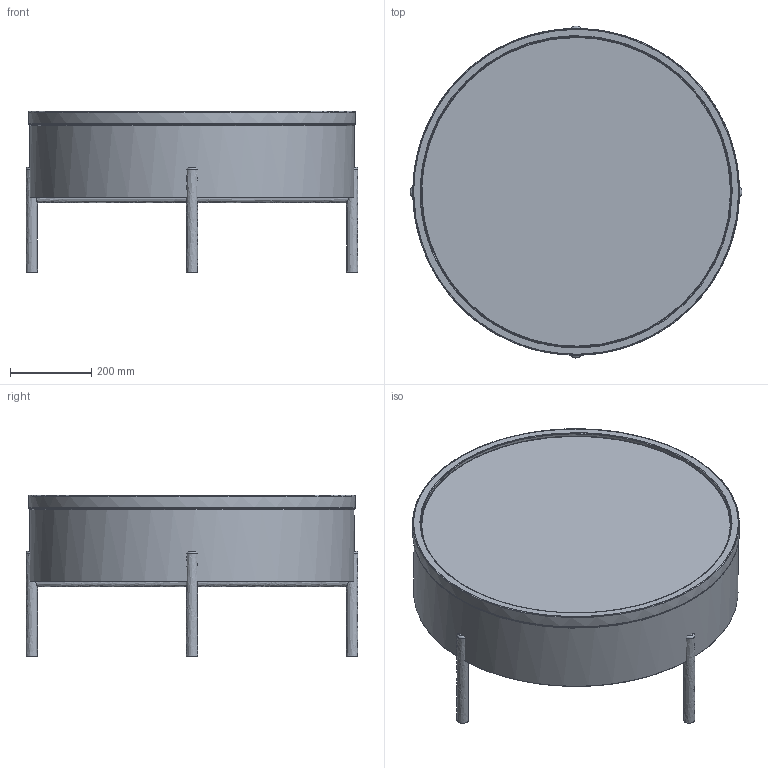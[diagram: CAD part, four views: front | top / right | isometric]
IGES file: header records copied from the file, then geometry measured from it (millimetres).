
Global section: file name: 16HC:\Users\Monika; native system: Rhinoceros ( Feb  8 2022 ); preprocessor: Trout Lake IGES 012 Feb  8 2022; date: 231009.120457; units: millimetre
Bounding box: 818.28 x 818.28 x 397.64 mm (x, y, z)
Surface area: 4140704.8 mm2 (no closed solid volume)
Topology: 0 solids, 0 shells, 44 faces, 392 edges, 363 vertices
Faces by surface type: bspline 44
